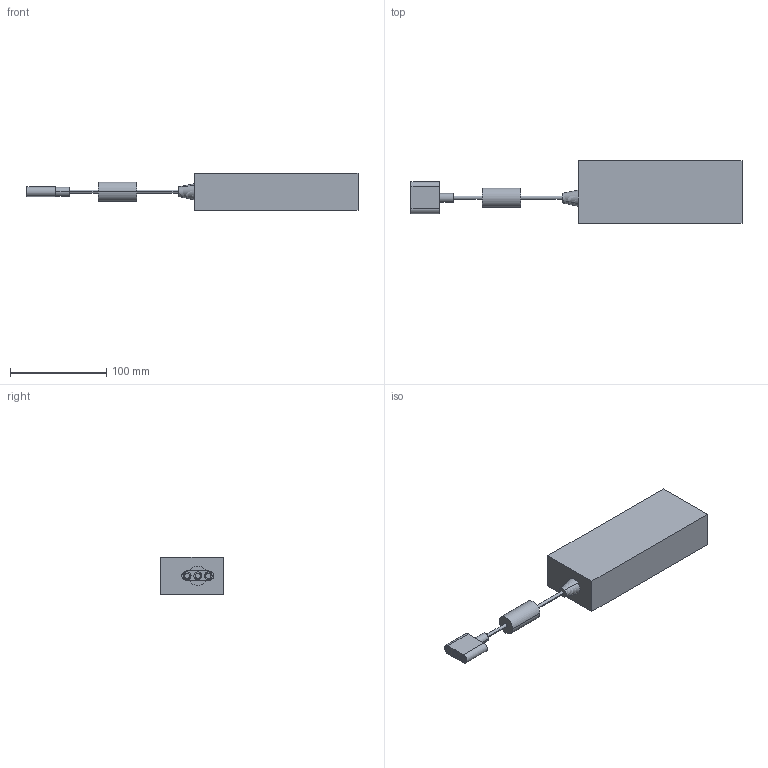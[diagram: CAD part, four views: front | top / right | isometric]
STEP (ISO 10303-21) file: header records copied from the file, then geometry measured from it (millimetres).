
FILE_DESCRIPTION (( 'STEP AP214' ), '1' );
FILE_NAME ('Netzteil.STEP', '2010-09-27T09:11:34', ( 'Grass' ), ( '' ), 'SwSTEP 2.0', 'SolidWorks 2010', '' );
FILE_SCHEMA (( 'AUTOMOTIVE_DESIGN' ));
Length unit declared in the file: millimetre
Products named in the file (1): Netzteil
Bounding box: 345 x 64.8 x 39 mm (x, y, z)
Volume: 443784.7 mm3; surface area: 49364.1 mm2
Topology: 1 solids, 1 shells, 64 faces, 135 edges, 90 vertices
Faces by surface type: cylinder 31, plane 31, bspline 2
Entity records: 1795 total; most frequent: DIRECTION 325, CARTESIAN_POINT 318, ORIENTED_EDGE 270, EDGE_CURVE 135, AXIS2_PLACEMENT_3D 129, VERTEX_POINT 90, EDGE_LOOP 81, VECTOR 67
